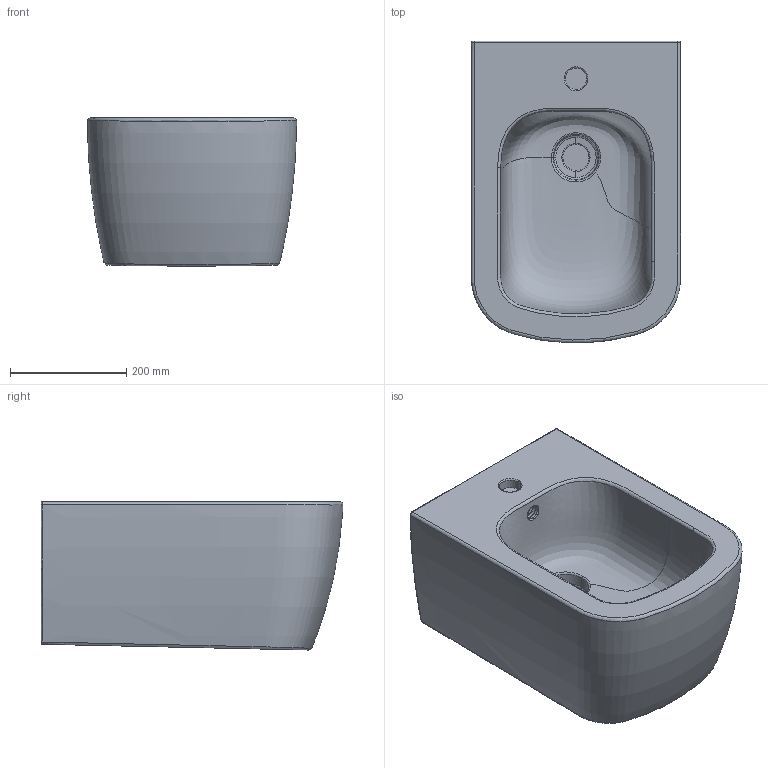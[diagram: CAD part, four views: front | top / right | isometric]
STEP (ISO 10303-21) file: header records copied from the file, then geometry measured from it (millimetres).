
FILE_DESCRIPTION(/* description */ (''),/* implementation_level */ '2;1');
FILE_NAME(/* name */ 'PLAY_PY218',/* time_stamp */ '2023-06-21T17:02:33+02:00',/* author */ (''),/* organization */ (''),/* preprocessor_version */ 'ST-DEVELOPER v16.5',/* originating_system */ 'Rhino 7.30',/* authorisation */ '');
FILE_SCHEMA (('CONFIG_CONTROL_DESIGN'));
Length unit declared in the file: millimetre
Products named in the file (1): Document
Bounding box: 360.04 x 519.73 x 254.92 mm (x, y, z)
Volume: 30395150.6 mm3; surface area: 833170.6 mm2
Topology: 1 solids, 1 shells, 49 faces, 105 edges, 62 vertices
Faces by surface type: bspline 34, cylinder 8, plane 7
Entity records: 17547 total; most frequent: CARTESIAN_POINT 16859, ORIENTED_EDGE 210, EDGE_CURVE 105, VERTEX_POINT 62, EDGE_LOOP 53, ADVANCED_FACE 49, FACE_OUTER_BOUND 49, DIRECTION 19
